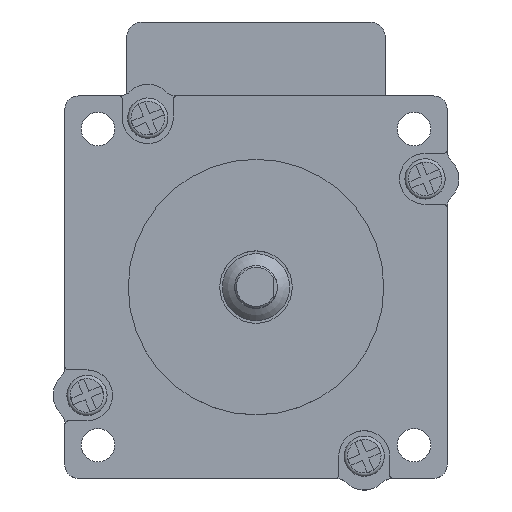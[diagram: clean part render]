
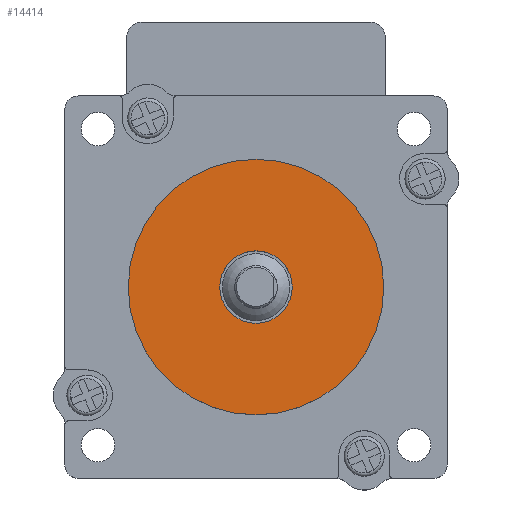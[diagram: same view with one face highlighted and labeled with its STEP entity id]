
A CAD part, top view. The second image highlights one B-rep face of the part: STEP entity #14414.
In plain terms, the highlighted planar face has unit normal (0, 0, 1).
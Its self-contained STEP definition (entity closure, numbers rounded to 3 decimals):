
#818=CIRCLE('',#1752,5.398);
#819=CIRCLE('',#1753,19.05);
#1751=AXIS2_PLACEMENT_3D('',#18459,#5563,$);
#1752=AXIS2_PLACEMENT_3D('',#18460,#5564,#5565);
#1753=AXIS2_PLACEMENT_3D('',#18462,#5566,#5567);
#2361=PLANE('',#1751);
#5563=DIRECTION('',(0.,0.,1.));
#5564=DIRECTION('',(0.,0.,-1.));
#5565=DIRECTION('',(5.398,0.,0.));
#5566=DIRECTION('',(0.,0.,-1.));
#5567=DIRECTION('',(19.05,0.,0.));
#7343=VERTEX_POINT('',#18461);
#7344=VERTEX_POINT('',#18463);
#8814=EDGE_CURVE('',#7343,#7343,#818,.T.);
#8815=EDGE_CURVE('',#7344,#7344,#819,.T.);
#11197=ORIENTED_EDGE('',*,*,#8814,.T.);
#11198=ORIENTED_EDGE('',*,*,#8815,.F.);
#12824=EDGE_LOOP('',(#11197));
#12825=EDGE_LOOP('',(#11198));
#13666=FACE_BOUND('',#12824,.T.);
#13667=FACE_BOUND('',#12825,.T.);
#14414=ADVANCED_FACE('',(#13666,#13667),#2361,.T.);
#18459=CARTESIAN_POINT('',(0.,0.,1.6));
#18460=CARTESIAN_POINT('',(0.,0.,1.6));
#18461=CARTESIAN_POINT('',(5.398,0.,1.6));
#18462=CARTESIAN_POINT('',(0.,0.,1.6));
#18463=CARTESIAN_POINT('',(19.05,0.,1.6));
